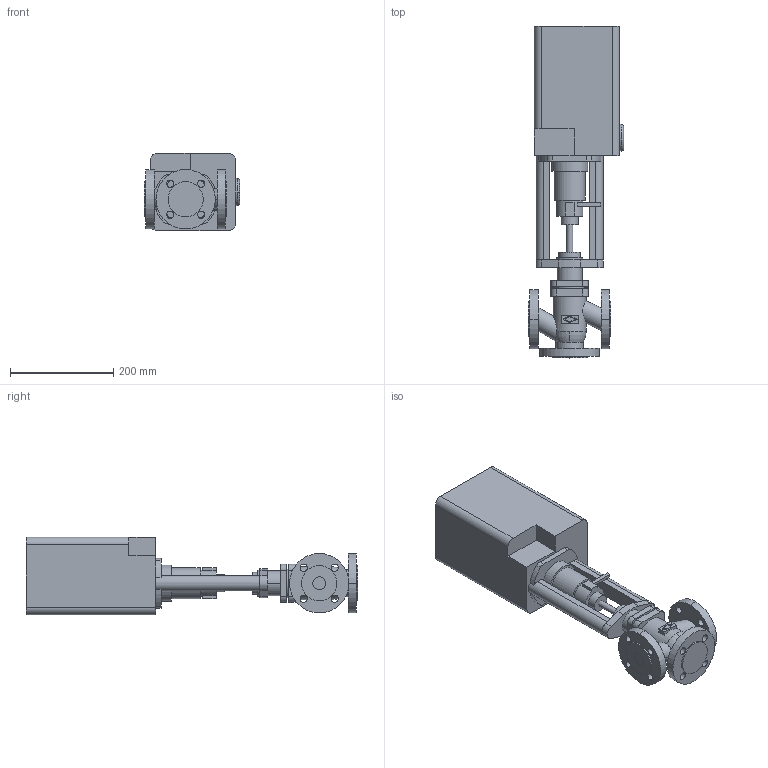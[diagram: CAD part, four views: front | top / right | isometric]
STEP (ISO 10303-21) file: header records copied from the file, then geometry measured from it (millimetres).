
FILE_DESCRIPTION(('OneSpaceDesigner STEP Export'),'2;1');
FILE_NAME('c000000390.stp','2006-09-19T11:47:05',(''),(''),'OneSpace Designer STEP processor for AP214 (Solid Model)','OneSpace Designer 13.20A 18-Aug-2005 (C) CoCreate Software GmbH','');
FILE_SCHEMA(('AUTOMOTIVE_DESIGN { 1 0 10303 214 1 1 1 1 }'));
Length unit declared in the file: millimetre
Products named in the file (2): 1; 2
Bounding box: 184.6 x 643 x 150 mm (x, y, z)
Volume: 7938285.2 mm3; surface area: 418803.9 mm2
Topology: 2 solids, 2 shells, 192 faces, 484 edges, 322 vertices
Faces by surface type: cylinder 94, plane 94, torus 4
Entity records: 5528 total; most frequent: CARTESIAN_POINT 1061, ORIENTED_EDGE 968, DIRECTION 849, EDGE_CURVE 484, VERTEX_POINT 322, AXIS2_PLACEMENT_3D 293, VECTOR 263, LINE 263
